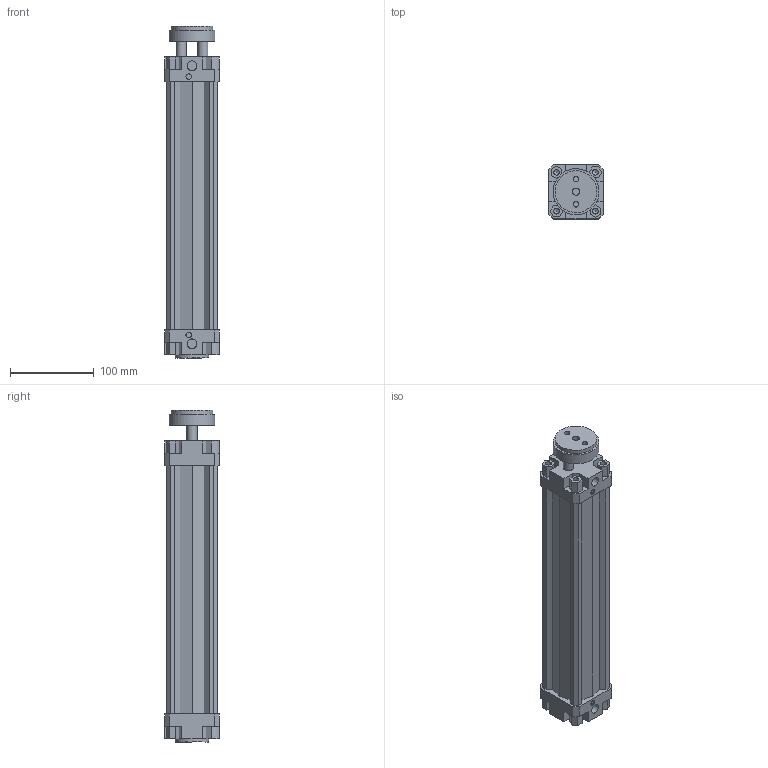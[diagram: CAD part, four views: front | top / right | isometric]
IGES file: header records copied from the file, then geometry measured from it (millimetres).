
Global section: file name: 132#_050_0250_01; native system: Autodesk Inventor 2014; preprocessor: unknown; author: A. Manieri; date: 20161006.155749; units: millimetre
Bounding box: 65 x 65 x 397 mm (x, y, z)
Volume: 729798.2 mm3; surface area: 205928.3 mm2
Topology: 2 solids, 2 shells, 180 faces, 492 edges, 336 vertices
Faces by surface type: bspline 180
